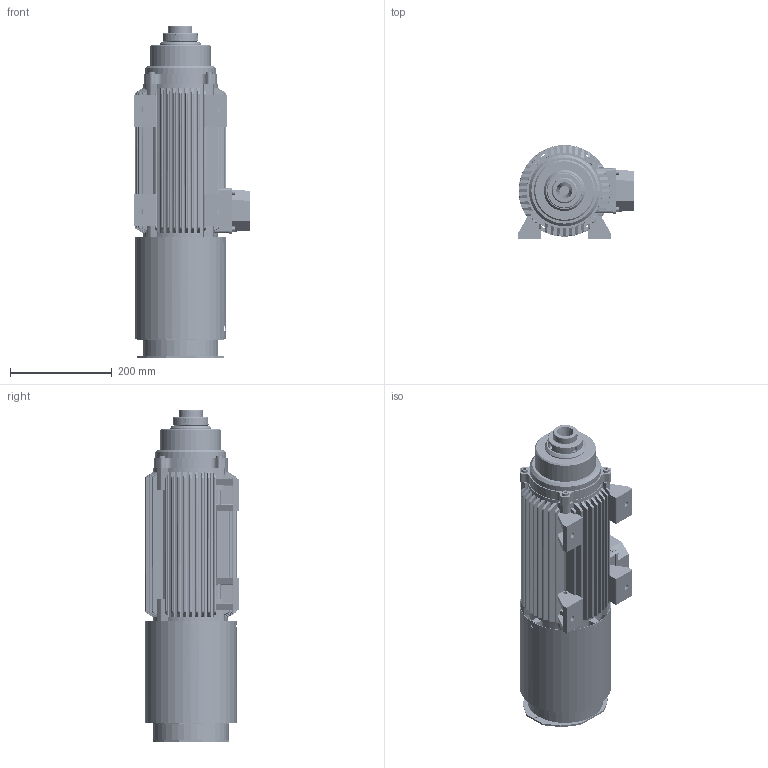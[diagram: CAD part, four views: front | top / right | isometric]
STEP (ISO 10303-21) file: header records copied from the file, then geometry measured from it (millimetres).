
FILE_DESCRIPTION (( 'STEP AP203' ), '1' );
FILE_NAME ('ARFM.6T-L TAKIM DEÐÝÞTÝRMELÝ KARE FANLI.STEP', '2024-04-18T12:16:59', ( '' ), ( '' ), 'SwSTEP 2.0', 'SolidWorks 2014', '' );
FILE_SCHEMA (( 'CONFIG_CONTROL_DESIGN' ));
Length unit declared in the file: millimetre
Products named in the file (19): 6Y 琄 Toz Kapak; 6Y Klemens Kapak; Arfm.4T Takým Deðiþtirmeli Yüzük Ýç; Fan 6T; M5x15 inpus_91290A252; 6Y Tak. Deg. Arka Kapak; M6x16 inpus_91290A330; Arfm.6Y Tak. Deð. Rotor Mili; 6Y 琄 Kilitleme Somunu; Arfm.4T Takým Deðiþtirmeli Yüzük Dýþ; 6Y STATOR PAKET; M8x30 inpus_96144A219; 6Y Gövde; 7010 Rulman; ARFM.6T-L TAKIM DEÐÝÞTÝRMELÝ KARE FANLI; Arfm.6Y-L Tas Kapak Yeni; YAG KAPAGI; 6Y ROTOR PAKET; 6Y 琄 Kapak Yeni
Assembly tree (35 placements, depth 2):
  ARFM.6T-L TAKIM DEÐÝÞTÝRMELÝ KARE FANLI
    6Y Gövde
    6Y Klemens Kapak
    6Y 琄 Kilitleme Somunu
    6Y 琄 Toz Kapak
    Arfm.6Y Tak. Deð. Rotor Mili
    Arfm.6Y-L Tas Kapak Yeni
    Fan 6T
    6Y STATOR PAKET
    6Y ROTOR PAKET
    6Y Tak. Deg. Arka Kapak
    7010 Rulman  x2
    Arfm.4T Takým Deðiþtirmeli Yüzük Ýç
    Arfm.4T Takým Deðiþtirmeli Yüzük Dýþ  x2
    YAG KAPAGI
    M5x15 inpus_91290A252  x6
    M8x30 inpus_96144A219  x8
    6Y 琄 Kapak Yeni
    M6x16 inpus_91290A330  x4
Bounding box: 228.5 x 185 x 652.5 mm (x, y, z)
Volume: 7199004 mm3; surface area: 1898070 mm2
Topology: 37 solids, 41 shells, 4404 faces, 12223 edges, 7975 vertices
Faces by surface type: cylinder 2859, plane 901, cone 423, torus 130, bspline 83, sphere 8
Entity records: 96545 total; most frequent: CARTESIAN_POINT 30887, ORIENTED_EDGE 13863, DIRECTION 12956, EDGE_CURVE 6939, AXIS2_PLACEMENT_3D 4926, VERTEX_POINT 4555, VECTOR 3104, LINE 3104
